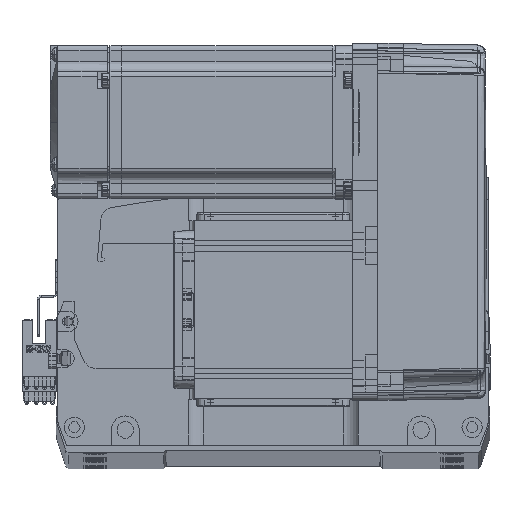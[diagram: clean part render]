
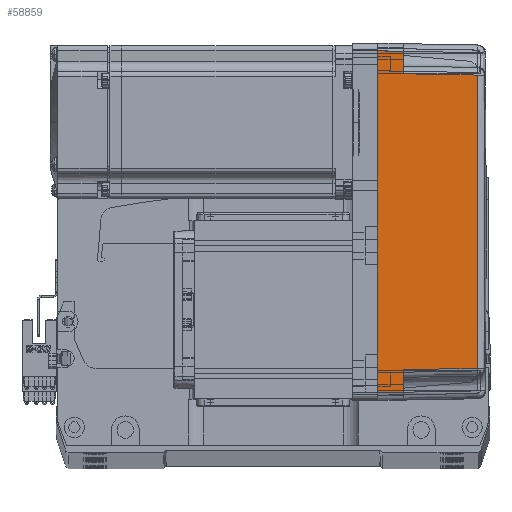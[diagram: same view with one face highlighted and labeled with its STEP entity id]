
A CAD part, top view. The second image highlights one B-rep face of the part: STEP entity #58859.
In plain terms, the highlighted planar face has unit normal (0.018, 0, 1) as drawn and (0, -1, 0.017) by its records, which use the part's own axes.
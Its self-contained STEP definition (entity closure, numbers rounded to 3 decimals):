
#334 = ORIENTED_EDGE ( 'NONE', *, *, #46234, .T. ) ;
#1780 = CARTESIAN_POINT ( 'NONE',  ( -58., -35.825, 10. ) ) ;
#2616 = ORIENTED_EDGE ( 'NONE', *, *, #69814, .T. ) ;
#2690 = LINE ( 'NONE', #36188, #43350 ) ;
#3298 = CARTESIAN_POINT ( 'NONE',  ( 67., -36., 0. ) ) ;
#4700 = CARTESIAN_POINT ( 'NONE',  ( 58., -35.825, 10. ) ) ;
#4824 = ORIENTED_EDGE ( 'NONE', *, *, #20705, .F. ) ;
#7175 = CARTESIAN_POINT ( 'NONE',  ( -66.826, -35.825, 10. ) ) ;
#7732 = LINE ( 'NONE', #54638, #51899 ) ;
#9251 = ORIENTED_EDGE ( 'NONE', *, *, #25244, .T. ) ;
#10205 = DIRECTION ( 'NONE',  ( -1., 0., 0. ) ) ;
#11349 = FACE_OUTER_BOUND ( 'NONE', #25281, .T. ) ;
#14572 = CARTESIAN_POINT ( 'NONE',  ( 67., -36., 0. ) ) ;
#15287 = VERTEX_POINT ( 'NONE', #45277 ) ;
#18750 = LINE ( 'NONE', #3298, #24078 ) ;
#19175 = CARTESIAN_POINT ( 'NONE',  ( 19.165, -35.316, 39.181 ) ) ;
#19416 = CARTESIAN_POINT ( 'NONE',  ( -19.165, -35.316, 39.181 ) ) ;
#20705 = EDGE_CURVE ( 'NONE', #29072, #50214, #49851, .T. ) ;
#24078 = VECTOR ( 'NONE', #48714, 1000. ) ;
#24875 = CARTESIAN_POINT ( 'NONE',  ( -57.495, -35.32, 38.985 ) ) ;
#25244 = EDGE_CURVE ( 'NONE', #15287, #25657, #60753, .T. ) ;
#25281 = EDGE_LOOP ( 'NONE', ( #334, #42976, #2616, #39699, #9251, #61716, #4824, #63159 ) ) ;
#25541 = CARTESIAN_POINT ( 'NONE',  ( 57.495, -35.32, 38.985 ) ) ;
#25657 = VERTEX_POINT ( 'NONE', #1780 ) ;
#29072 = VERTEX_POINT ( 'NONE', #52033 ) ;
#30284 = DIRECTION ( 'NONE',  ( 0.017, 0.017, 1. ) ) ;
#34825 = VECTOR ( 'NONE', #30284, 1000. ) ;
#36142 = CARTESIAN_POINT ( 'NONE',  ( 0., -36., 0. ) ) ;
#36188 = CARTESIAN_POINT ( 'NONE',  ( 58., -35.825, 10. ) ) ;
#36269 = DIRECTION ( 'NONE',  ( 0., -0.017, -1. ) ) ;
#37198 = AXIS2_PLACEMENT_3D ( 'NONE', #64958, #42424, #36269 ) ;
#38204 = CARTESIAN_POINT ( 'NONE',  ( 66.826, -35.825, 10. ) ) ;
#39699 = ORIENTED_EDGE ( 'NONE', *, *, #68373, .T. ) ;
#40956 = EDGE_CURVE ( 'NONE', #55095, #29072, #60880, .T. ) ;
#41628 = CARTESIAN_POINT ( 'NONE',  ( -66.959, -35.958, 2.39 ) ) ;
#42424 = DIRECTION ( 'NONE',  ( 0., -1., 0.017 ) ) ;
#42976 = ORIENTED_EDGE ( 'NONE', *, *, #68058, .T. ) ;
#43061 = VERTEX_POINT ( 'NONE', #4700 ) ;
#43350 = VECTOR ( 'NONE', #64879, 1000. ) ;
#45277 = CARTESIAN_POINT ( 'NONE',  ( -57.495, -35.32, 38.985 ) ) ;
#45698 = VECTOR ( 'NONE', #60914, 1000. ) ;
#45823 = VECTOR ( 'NONE', #46528, 1000. ) ;
#46234 = EDGE_CURVE ( 'NONE', #55095, #55702, #18750, .T. ) ;
#46528 = DIRECTION ( 'NONE',  ( -1., 0., 0. ) ) ;
#47339 = VERTEX_POINT ( 'NONE', #25541 ) ;
#48714 = DIRECTION ( 'NONE',  ( -0.017, 0.017, 1. ) ) ;
#49831 = VECTOR ( 'NONE', #68630, 1000. ) ;
#49851 = LINE ( 'NONE', #41628, #34825 ) ;
#50214 = VERTEX_POINT ( 'NONE', #7175 ) ;
#51799 = EDGE_CURVE ( 'NONE', #25657, #50214, #7732, .T. ) ;
#51899 = VECTOR ( 'NONE', #10205, 1000. ) ;
#52033 = CARTESIAN_POINT ( 'NONE',  ( -67., -36., 0. ) ) ;
#54638 = CARTESIAN_POINT ( 'NONE',  ( 70., -35.825, 10. ) ) ;
#55095 = VERTEX_POINT ( 'NONE', #14572 ) ;
#55702 = VERTEX_POINT ( 'NONE', #38204 ) ;
#57818 = LINE ( 'NONE', #68128, #49831 ) ;
#58859 = ADVANCED_FACE ( 'NONE', ( #11349 ), #70419, .T. ) ;
#60244 = B_SPLINE_CURVE_WITH_KNOTS ( 'NONE', 3,
 ( #70804, #19175, #19416, #24875 ),
 .UNSPECIFIED., .F., .F.,
 ( 4, 4 ),
 ( 0., 1. ),
 .UNSPECIFIED. ) ;
#60753 = LINE ( 'NONE', #71298, #45698 ) ;
#60880 = LINE ( 'NONE', #36142, #45823 ) ;
#60914 = DIRECTION ( 'NONE',  ( -0.017, -0.017, -1. ) ) ;
#61716 = ORIENTED_EDGE ( 'NONE', *, *, #51799, .T. ) ;
#63159 = ORIENTED_EDGE ( 'NONE', *, *, #40956, .F. ) ;
#64879 = DIRECTION ( 'NONE',  ( -0.017, 0.017, 1. ) ) ;
#64958 = CARTESIAN_POINT ( 'NONE',  ( 70., -36., 0. ) ) ;
#68058 = EDGE_CURVE ( 'NONE', #55702, #43061, #57818, .T. ) ;
#68128 = CARTESIAN_POINT ( 'NONE',  ( 70., -35.825, 10. ) ) ;
#68373 = EDGE_CURVE ( 'NONE', #47339, #15287, #60244, .T. ) ;
#68630 = DIRECTION ( 'NONE',  ( -1., 0., 0. ) ) ;
#69814 = EDGE_CURVE ( 'NONE', #43061, #47339, #2690, .T. ) ;
#70419 = PLANE ( 'NONE',  #37198 ) ;
#70804 = CARTESIAN_POINT ( 'NONE',  ( 57.495, -35.32, 38.985 ) ) ;
#71298 = CARTESIAN_POINT ( 'NONE',  ( -57.495, -35.32, 38.985 ) ) ;
